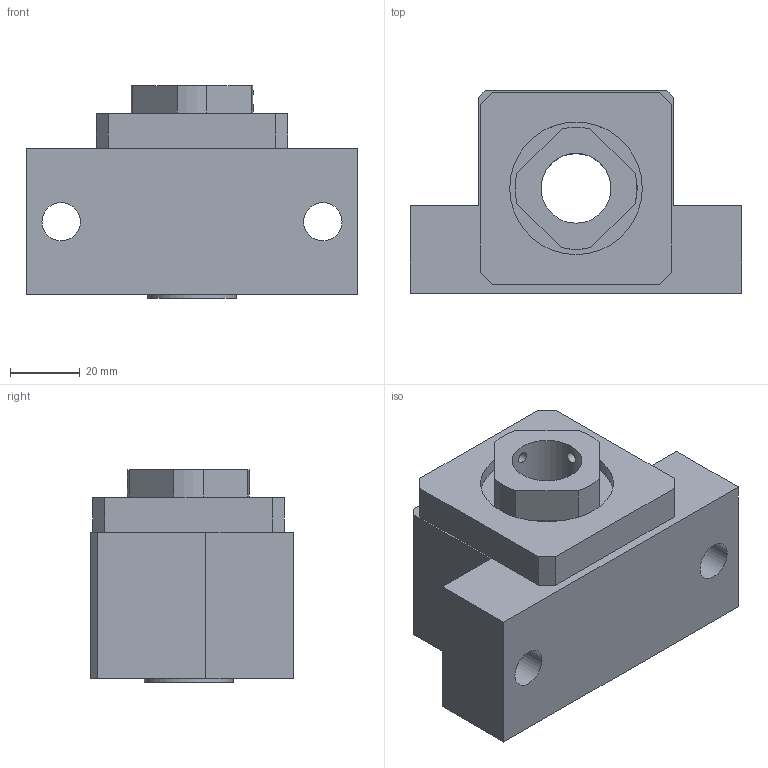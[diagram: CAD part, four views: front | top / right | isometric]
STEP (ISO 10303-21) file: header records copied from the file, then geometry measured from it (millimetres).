
FILE_DESCRIPTION(/* description */ (''),/* implementation_level */ '2;1');
FILE_NAME(/* name */ 'C:\Users\tenki620635\Desktop\官網\圖面\軸承座\3D\setp檔\EK20.stp',/* time_stamp */ '2020-12-21T16:14:20+08:00',/* author */ ('tenki620635'),/* organization */ (''),/* preprocessor_version */ 'ST-DEVELOPER v15.2',/* originating_system */ 'Autodesk Inventor 2014',/* authorisation */ '');
FILE_SCHEMA (('AUTOMOTIVE_DESIGN { 1 0 10303 214 3 1 1 }'));
Length unit declared in the file: millimetre
Products named in the file (1): EK20
Bounding box: 95 x 58 x 61 mm (x, y, z)
Volume: 188755.8 mm3; surface area: 30437.2 mm2
Topology: 1 solids, 1 shells, 45 faces, 116 edges, 79 vertices
Faces by surface type: plane 31, cylinder 14
Full cylindrical faces by diameter (mm): 3.242 x2, 11 x2, 20 x1, 25.5 x2, 27 x1, 38 x2
Entity records: 1439 total; most frequent: CARTESIAN_POINT 356, DIRECTION 210, ORIENTED_EDGE 200, EDGE_CURVE 100, VERTEX_POINT 74, EDGE_LOOP 72, LINE 70, VECTOR 70
